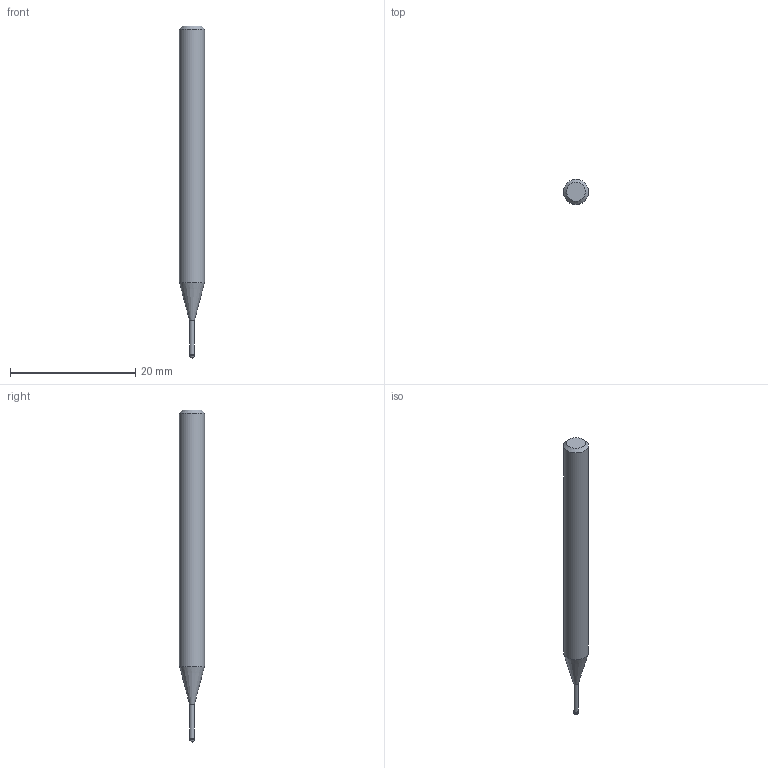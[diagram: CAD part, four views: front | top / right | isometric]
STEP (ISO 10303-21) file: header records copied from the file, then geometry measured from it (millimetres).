
FILE_DESCRIPTION((''),'2;1');
FILE_NAME('C:\Users\nsx150\AppData\Local\Temp\Mastercam 2021\LJSIDMOTM8\TEMP.step','2021-08-03T14:24:02',(''),(''),'STEP Write','Mastercam 2021 ... CNC Software, Inc.','');
FILE_SCHEMA(('AUTOMOTIVE_DESIGN'));
Length unit declared in the file: millimetre
Products named in the file (1): None
Bounding box: 4 x 4 x 53 mm (x, y, z)
Volume: 546.9 mm3; surface area: 585.4 mm2
Topology: 2 solids, 2 shells, 9 faces, 14 edges, 8 vertices
Faces by surface type: plane 3, cylinder 3, cone 2, sphere 1
Full cylindrical faces by diameter (mm): 0.76 x1, 0.8 x1, 4 x1
Entity records: 211 total; most frequent: DIRECTION 36, CARTESIAN_POINT 25, AXIS2_PLACEMENT_3D 18, ORIENTED_EDGE 14, EDGE_LOOP 14, STYLED_ITEM 12, ADVANCED_FACE 9, FACE_BOUND 8
